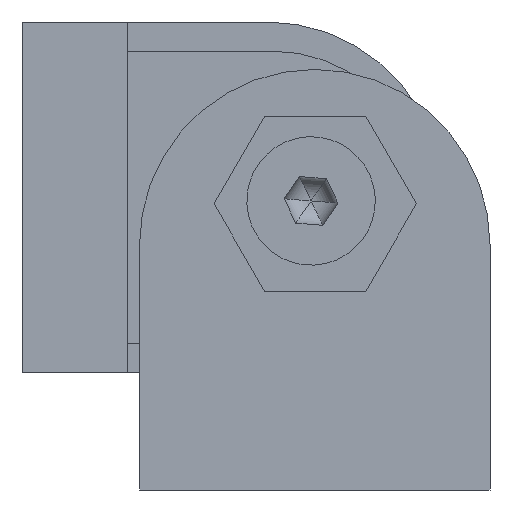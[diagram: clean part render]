
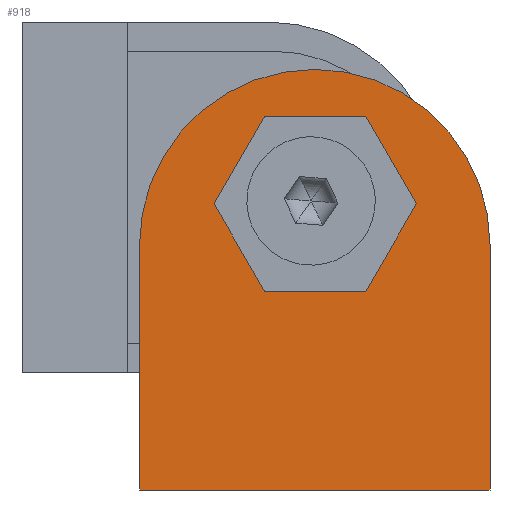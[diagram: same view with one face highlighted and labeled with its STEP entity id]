
A CAD part, left-side view. The second image highlights one B-rep face of the part: STEP entity #918.
In plain terms, the highlighted planar face has unit normal (-1, 0, 0).
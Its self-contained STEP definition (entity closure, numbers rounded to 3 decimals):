
#52 = CARTESIAN_POINT ( 'NONE',  ( -18.988, -15.175, 32. ) ) ;
#56 = ORIENTED_EDGE ( 'NONE', *, *, #3533, .T. ) ;
#83 = DIRECTION ( 'NONE',  ( 0., 0., -1. ) ) ;
#118 = VECTOR ( 'NONE', #3374, 1000. ) ;
#144 = DIRECTION ( 'NONE',  ( -1., 0., 0. ) ) ;
#148 = VERTEX_POINT ( 'NONE', #3153 ) ;
#149 = FACE_OUTER_BOUND ( 'NONE', #337, .T. ) ;
#206 = EDGE_CURVE ( 'NONE', #3495, #148, #847, .T. ) ;
#209 = DIRECTION ( 'NONE',  ( 0., 0.5, -0.866 ) ) ;
#231 = DIRECTION ( 'NONE',  ( 0., 0.5, 0.866 ) ) ;
#271 = CARTESIAN_POINT ( 'NONE',  ( -18.988, 4.195, 36. ) ) ;
#322 = VERTEX_POINT ( 'NONE', #920 ) ;
#337 = EDGE_LOOP ( 'NONE', ( #56, #2876, #3178, #2527, #1884 ) ) ;
#406 = CARTESIAN_POINT ( 'NONE',  ( -18.988, -10.805, 21. ) ) ;
#417 = ORIENTED_EDGE ( 'NONE', *, *, #1016, .F. ) ;
#471 = VERTEX_POINT ( 'NONE', #1264 ) ;
#500 = CARTESIAN_POINT ( 'NONE',  ( -18.988, -15.175, 17. ) ) ;
#618 = ORIENTED_EDGE ( 'NONE', *, *, #770, .F. ) ;
#638 = LINE ( 'NONE', #944, #2804 ) ;
#672 = VECTOR ( 'NONE', #2533, 1000. ) ;
#678 = DIRECTION ( 'NONE',  ( 0., 0., -1. ) ) ;
#752 = CARTESIAN_POINT ( 'NONE',  ( -18.988, -6.515, 32. ) ) ;
#759 = CARTESIAN_POINT ( 'NONE',  ( -18.988, -2.185, 24.5 ) ) ;
#770 = EDGE_CURVE ( 'NONE', #3003, #1905, #3622, .T. ) ;
#802 = CIRCLE ( 'NONE', #2586, 15. ) ;
#847 = LINE ( 'NONE', #500, #118 ) ;
#918 = ADVANCED_FACE ( 'NONE', ( #149, #2321 ), #1184, .F. ) ;
#920 = CARTESIAN_POINT ( 'NONE',  ( -18.988, -25.805, 0. ) ) ;
#944 = CARTESIAN_POINT ( 'NONE',  ( -18.988, -15.175, 32. ) ) ;
#1016 = EDGE_CURVE ( 'NONE', #2471, #1819, #638, .T. ) ;
#1048 = VECTOR ( 'NONE', #209, 1000. ) ;
#1184 = PLANE ( 'NONE',  #1606 ) ;
#1209 = LINE ( 'NONE', #271, #1960 ) ;
#1227 = DIRECTION ( 'NONE',  ( 0., -1., 0. ) ) ;
#1245 = EDGE_CURVE ( 'NONE', #1819, #3003, #1812, .T. ) ;
#1264 = CARTESIAN_POINT ( 'NONE',  ( -18.988, -25.805, 21. ) ) ;
#1324 = VERTEX_POINT ( 'NONE', #2208 ) ;
#1431 = VECTOR ( 'NONE', #3569, 1000. ) ;
#1499 = CARTESIAN_POINT ( 'NONE',  ( -18.988, 4.195, 0. ) ) ;
#1513 = LINE ( 'NONE', #1514, #1597 ) ;
#1514 = CARTESIAN_POINT ( 'NONE',  ( -18.988, 4.195, 0. ) ) ;
#1597 = VECTOR ( 'NONE', #2258, 1000. ) ;
#1606 = AXIS2_PLACEMENT_3D ( 'NONE', #3491, #1757, #83 ) ;
#1663 = CARTESIAN_POINT ( 'NONE',  ( -18.988, -2.185, 24.5 ) ) ;
#1692 = CIRCLE ( 'NONE', #2919, 15. ) ;
#1757 = DIRECTION ( 'NONE',  ( 1., 0., 0. ) ) ;
#1795 = VECTOR ( 'NONE', #231, 1000. ) ;
#1812 = LINE ( 'NONE', #752, #1048 ) ;
#1819 = VERTEX_POINT ( 'NONE', #2623 ) ;
#1823 = CARTESIAN_POINT ( 'NONE',  ( -18.988, -10.805, 21. ) ) ;
#1884 = ORIENTED_EDGE ( 'NONE', *, *, #2867, .F. ) ;
#1897 = VERTEX_POINT ( 'NONE', #1499 ) ;
#1899 = VERTEX_POINT ( 'NONE', #2655 ) ;
#1905 = VERTEX_POINT ( 'NONE', #3238 ) ;
#1960 = VECTOR ( 'NONE', #2254, 1000. ) ;
#2087 = CARTESIAN_POINT ( 'NONE',  ( -18.988, -15.175, 17. ) ) ;
#2119 = DIRECTION ( 'NONE',  ( 0., 0., -1. ) ) ;
#2208 = CARTESIAN_POINT ( 'NONE',  ( -18.988, -10.805, 36. ) ) ;
#2244 = EDGE_CURVE ( 'NONE', #148, #2471, #3421, .T. ) ;
#2254 = DIRECTION ( 'NONE',  ( 0., 0., -1. ) ) ;
#2258 = DIRECTION ( 'NONE',  ( 0., -1., 0. ) ) ;
#2321 = FACE_BOUND ( 'NONE', #3542, .T. ) ;
#2364 = DIRECTION ( 'NONE',  ( 0., 1., 0. ) ) ;
#2383 = DIRECTION ( 'NONE',  ( -1., 0., 0. ) ) ;
#2401 = CARTESIAN_POINT ( 'NONE',  ( -18.988, -25.805, 36. ) ) ;
#2471 = VERTEX_POINT ( 'NONE', #52 ) ;
#2495 = CARTESIAN_POINT ( 'NONE',  ( -18.988, -19.505, 24.5 ) ) ;
#2527 = ORIENTED_EDGE ( 'NONE', *, *, #3322, .T. ) ;
#2533 = DIRECTION ( 'NONE',  ( 0., -0.5, -0.866 ) ) ;
#2553 = ORIENTED_EDGE ( 'NONE', *, *, #1245, .F. ) ;
#2586 = AXIS2_PLACEMENT_3D ( 'NONE', #1823, #144, #2119 ) ;
#2590 = LINE ( 'NONE', #2644, #3269 ) ;
#2623 = CARTESIAN_POINT ( 'NONE',  ( -18.988, -6.515, 32. ) ) ;
#2644 = CARTESIAN_POINT ( 'NONE',  ( -18.988, -6.515, 17. ) ) ;
#2655 = CARTESIAN_POINT ( 'NONE',  ( -18.988, 4.195, 21. ) ) ;
#2753 = ORIENTED_EDGE ( 'NONE', *, *, #3462, .F. ) ;
#2791 = EDGE_CURVE ( 'NONE', #1324, #1899, #1692, .T. ) ;
#2804 = VECTOR ( 'NONE', #2364, 1000. ) ;
#2867 = EDGE_CURVE ( 'NONE', #471, #322, #2957, .T. ) ;
#2876 = ORIENTED_EDGE ( 'NONE', *, *, #2791, .T. ) ;
#2919 = AXIS2_PLACEMENT_3D ( 'NONE', #406, #2383, #678 ) ;
#2957 = LINE ( 'NONE', #2401, #1431 ) ;
#3003 = VERTEX_POINT ( 'NONE', #759 ) ;
#3153 = CARTESIAN_POINT ( 'NONE',  ( -18.988, -19.505, 24.5 ) ) ;
#3162 = EDGE_CURVE ( 'NONE', #1899, #1897, #1209, .T. ) ;
#3178 = ORIENTED_EDGE ( 'NONE', *, *, #3162, .T. ) ;
#3238 = CARTESIAN_POINT ( 'NONE',  ( -18.988, -6.515, 17. ) ) ;
#3269 = VECTOR ( 'NONE', #1227, 1000. ) ;
#3322 = EDGE_CURVE ( 'NONE', #1897, #322, #1513, .T. ) ;
#3374 = DIRECTION ( 'NONE',  ( 0., -0.5, 0.866 ) ) ;
#3421 = LINE ( 'NONE', #2495, #1795 ) ;
#3462 = EDGE_CURVE ( 'NONE', #1905, #3495, #2590, .T. ) ;
#3491 = CARTESIAN_POINT ( 'NONE',  ( -18.988, 4.195, 36. ) ) ;
#3495 = VERTEX_POINT ( 'NONE', #2087 ) ;
#3500 = ORIENTED_EDGE ( 'NONE', *, *, #2244, .F. ) ;
#3533 = EDGE_CURVE ( 'NONE', #471, #1324, #802, .T. ) ;
#3542 = EDGE_LOOP ( 'NONE', ( #3684, #2753, #618, #2553, #417, #3500 ) ) ;
#3569 = DIRECTION ( 'NONE',  ( 0., 0., -1. ) ) ;
#3622 = LINE ( 'NONE', #1663, #672 ) ;
#3684 = ORIENTED_EDGE ( 'NONE', *, *, #206, .F. ) ;
